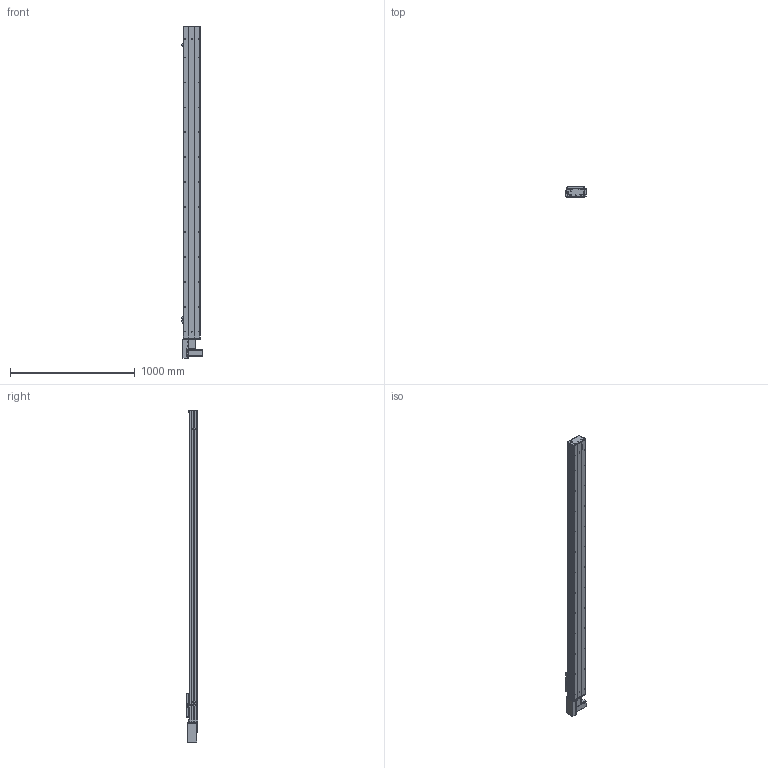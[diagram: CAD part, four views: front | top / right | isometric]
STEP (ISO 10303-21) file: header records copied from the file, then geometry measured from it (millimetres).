
FILE_DESCRIPTION (( 'STEP AP203' ), '1' );
FILE_NAME ('Y135CB-D90-S2200-BR-P400W.STEP', '2020-02-18T02:58:32', ( '微软用户' ), ( '微软中国' ), 'SwSTEP 2.0', 'SolidWorks 2017', '' );
FILE_SCHEMA (( 'CONFIG_CONTROL_DESIGN' ));
Length unit declared in the file: millimetre
Products named in the file (18): Y135CB-耜裔; Y135CB-D90-S2200-BR-P400W; 5CB --掛极耜裔啣-; 135CB---遴掛极.-; C-詩湍揤踡え-陔; 35CB---喘謫眊楊擘啣; 135CB--詩湍-CE; Y10B-耜蚾蟀諉啣----; Y100-135俋离換覜ん--; Y俋欶BR----; Y135C-陔俋离換覜結え-; 0B-埴倛裔啣; 5C--俋欶; 0B-源倛裔啣; C-雄赽釱--; 0B-萇儂楊擘啣; Y10B--々湍喘謫眊--666; san松下电机400不带刹车----
Assembly tree (21 placements, depth 2):
  Y135CB-D90-S2200-BR-P400W
    Y135CB-耜裔
    135CB---遴掛极.-
    35CB---喘謫眊楊擘啣
    Y10B-耜蚾蟀諉啣----
    Y俋欶BR----
    0B-埴倛裔啣
    0B-源倛裔啣
    0B-萇儂楊擘啣
    san松下电机400不带刹车----
    5CB --掛极耜裔啣-  x2
    C-詩湍揤踡え-陔  x2
    135CB--詩湍-CE
    Y100-135俋离換覜ん--  x3
    Y135C-陔俋离換覜結え-
    5C--俋欶
    C-雄赽釱--
    Y10B--々湍喘謫眊--666
Bounding box: 167.5 x 91 x 2664.5 mm (x, y, z)
Volume: 7503595.8 mm3; surface area: 2968352.2 mm2
Topology: 21 solids, 21 shells, 969 faces, 2635 edges, 1746 vertices
Faces by surface type: cylinder 495, plane 458, cone 16
Entity records: 30553 total; most frequent: CARTESIAN_POINT 5076, DIRECTION 5075, ORIENTED_EDGE 4746, EDGE_CURVE 2373, AXIS2_PLACEMENT_3D 1857, VERTEX_POINT 1574, LINE 1361, VECTOR 1361
